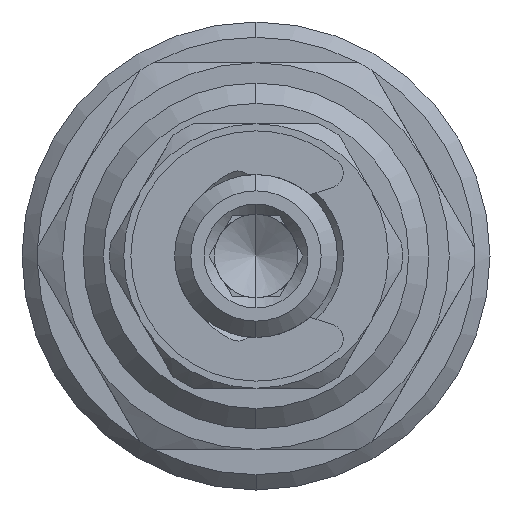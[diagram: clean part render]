
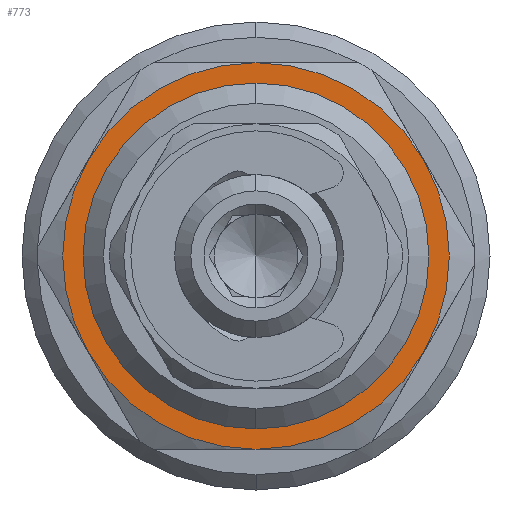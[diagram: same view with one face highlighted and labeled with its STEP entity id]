
A CAD part, left-side view. The second image highlights one B-rep face of the part: STEP entity #773.
In plain terms, the highlighted planar face has unit normal (-1, 0, 0).
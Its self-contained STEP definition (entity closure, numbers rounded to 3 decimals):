
#232 = EDGE_LOOP ( 'NONE', ( #4427, #1233 ) ) ;
#306 = ORIENTED_EDGE ( 'NONE', *, *, #1235, .T. ) ;
#462 = DIRECTION ( 'NONE',  ( -1., 0., 0. ) ) ;
#524 = CIRCLE ( 'NONE', #3458, 9.5 ) ;
#598 = CARTESIAN_POINT ( 'NONE',  ( 13., 0., -8.5 ) ) ;
#619 = CARTESIAN_POINT ( 'NONE',  ( 13., 0., 0. ) ) ;
#754 = VERTEX_POINT ( 'NONE', #3554 ) ;
#773 = ADVANCED_FACE ( 'NONE', ( #8898, #2240 ), #1555, .F. ) ;
#843 = CARTESIAN_POINT ( 'NONE',  ( 13., 10.75, 0. ) ) ;
#1029 = EDGE_LOOP ( 'NONE', ( #5014, #6860, #6054, #6818, #1850, #306 ) ) ;
#1233 = ORIENTED_EDGE ( 'NONE', *, *, #1388, .F. ) ;
#1235 = EDGE_CURVE ( 'NONE', #5158, #2741, #4001, .T. ) ;
#1280 = CARTESIAN_POINT ( 'NONE',  ( 13., -8.227, -4.75 ) ) ;
#1319 = DIRECTION ( 'NONE',  ( -1., 0., 0. ) ) ;
#1354 = EDGE_CURVE ( 'NONE', #3698, #5158, #9037, .T. ) ;
#1388 = EDGE_CURVE ( 'NONE', #3222, #6495, #3850, .T. ) ;
#1525 = CARTESIAN_POINT ( 'NONE',  ( 13., 0., 0. ) ) ;
#1555 = PLANE ( 'NONE',  #4405 ) ;
#1591 = CIRCLE ( 'NONE', #6626, 9.5 ) ;
#1613 = DIRECTION ( 'NONE',  ( -1., 0., 0. ) ) ;
#1850 = ORIENTED_EDGE ( 'NONE', *, *, #1354, .T. ) ;
#2046 = AXIS2_PLACEMENT_3D ( 'NONE', #5723, #8663, #6476 ) ;
#2240 = FACE_OUTER_BOUND ( 'NONE', #1029, .T. ) ;
#2329 = DIRECTION ( 'NONE',  ( -1., 0., 0. ) ) ;
#2384 = DIRECTION ( 'NONE',  ( 0., 0., -1. ) ) ;
#2599 = AXIS2_PLACEMENT_3D ( 'NONE', #1525, #2990, #4334 ) ;
#2676 = CIRCLE ( 'NONE', #2046, 9.5 ) ;
#2741 = VERTEX_POINT ( 'NONE', #7288 ) ;
#2812 = CARTESIAN_POINT ( 'NONE',  ( 13., 0., 0. ) ) ;
#2990 = DIRECTION ( 'NONE',  ( -1., 0., 0. ) ) ;
#3044 = CARTESIAN_POINT ( 'NONE',  ( 13., 0., 8.5 ) ) ;
#3222 = VERTEX_POINT ( 'NONE', #598 ) ;
#3235 = CARTESIAN_POINT ( 'NONE',  ( 13., 0., 0. ) ) ;
#3442 = VERTEX_POINT ( 'NONE', #8081 ) ;
#3458 = AXIS2_PLACEMENT_3D ( 'NONE', #8190, #1613, #8098 ) ;
#3554 = CARTESIAN_POINT ( 'NONE',  ( 13., 0., -9.5 ) ) ;
#3698 = VERTEX_POINT ( 'NONE', #1280 ) ;
#3850 = CIRCLE ( 'NONE', #9339, 8.5 ) ;
#3899 = EDGE_CURVE ( 'NONE', #6741, #754, #2676, .T. ) ;
#3999 = EDGE_CURVE ( 'NONE', #2741, #3442, #524, .T. ) ;
#4001 = CIRCLE ( 'NONE', #9331, 9.5 ) ;
#4334 = DIRECTION ( 'NONE',  ( 0., 0., 1. ) ) ;
#4405 = AXIS2_PLACEMENT_3D ( 'NONE', #843, #4420, #2384 ) ;
#4420 = DIRECTION ( 'NONE',  ( 1., 0., 0. ) ) ;
#4427 = ORIENTED_EDGE ( 'NONE', *, *, #8258, .F. ) ;
#4669 = CIRCLE ( 'NONE', #7240, 8.5 ) ;
#4688 = CARTESIAN_POINT ( 'NONE',  ( 13., -8.227, 4.75 ) ) ;
#4704 = EDGE_CURVE ( 'NONE', #754, #3698, #4748, .T. ) ;
#4748 = CIRCLE ( 'NONE', #8728, 9.5 ) ;
#5014 = ORIENTED_EDGE ( 'NONE', *, *, #3999, .T. ) ;
#5158 = VERTEX_POINT ( 'NONE', #4688 ) ;
#5723 = CARTESIAN_POINT ( 'NONE',  ( 13., 0., 0. ) ) ;
#6054 = ORIENTED_EDGE ( 'NONE', *, *, #3899, .T. ) ;
#6101 = DIRECTION ( 'NONE',  ( 0., 0., 1. ) ) ;
#6134 = CARTESIAN_POINT ( 'NONE',  ( 13., 8.227, -4.75 ) ) ;
#6215 = DIRECTION ( 'NONE',  ( 0., 0., 1. ) ) ;
#6476 = DIRECTION ( 'NONE',  ( 0., 0., 1. ) ) ;
#6495 = VERTEX_POINT ( 'NONE', #3044 ) ;
#6626 = AXIS2_PLACEMENT_3D ( 'NONE', #7715, #462, #6215 ) ;
#6741 = VERTEX_POINT ( 'NONE', #6134 ) ;
#6818 = ORIENTED_EDGE ( 'NONE', *, *, #4704, .T. ) ;
#6860 = ORIENTED_EDGE ( 'NONE', *, *, #7064, .T. ) ;
#7064 = EDGE_CURVE ( 'NONE', #3442, #6741, #1591, .T. ) ;
#7240 = AXIS2_PLACEMENT_3D ( 'NONE', #8853, #2329, #6101 ) ;
#7288 = CARTESIAN_POINT ( 'NONE',  ( 13., 0., 9.5 ) ) ;
#7715 = CARTESIAN_POINT ( 'NONE',  ( 13., 0., 0. ) ) ;
#7890 = DIRECTION ( 'NONE',  ( 0., 0., 1. ) ) ;
#8061 = DIRECTION ( 'NONE',  ( 0., 0., 1. ) ) ;
#8081 = CARTESIAN_POINT ( 'NONE',  ( 13., 8.227, 4.75 ) ) ;
#8098 = DIRECTION ( 'NONE',  ( 0., 0., 1. ) ) ;
#8190 = CARTESIAN_POINT ( 'NONE',  ( 13., 0., 0. ) ) ;
#8258 = EDGE_CURVE ( 'NONE', #6495, #3222, #4669, .T. ) ;
#8429 = DIRECTION ( 'NONE',  ( 0., 0., 1. ) ) ;
#8530 = DIRECTION ( 'NONE',  ( -1., 0., 0. ) ) ;
#8663 = DIRECTION ( 'NONE',  ( -1., 0., 0. ) ) ;
#8703 = DIRECTION ( 'NONE',  ( -1., 0., 0. ) ) ;
#8728 = AXIS2_PLACEMENT_3D ( 'NONE', #3235, #8530, #8429 ) ;
#8853 = CARTESIAN_POINT ( 'NONE',  ( 13., 0., 0. ) ) ;
#8898 = FACE_BOUND ( 'NONE', #232, .T. ) ;
#9037 = CIRCLE ( 'NONE', #2599, 9.5 ) ;
#9331 = AXIS2_PLACEMENT_3D ( 'NONE', #2812, #8703, #7890 ) ;
#9339 = AXIS2_PLACEMENT_3D ( 'NONE', #619, #1319, #8061 ) ;
